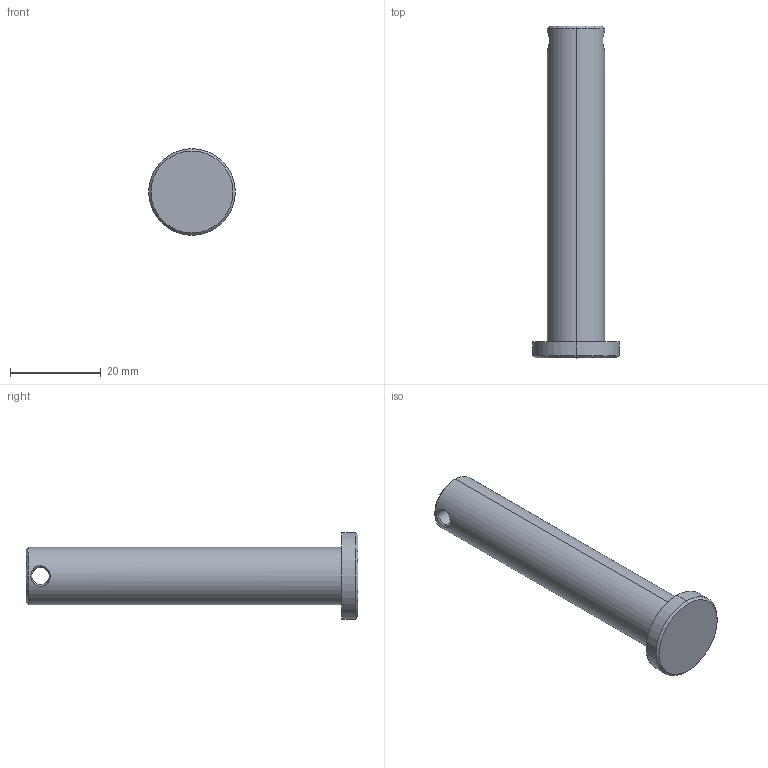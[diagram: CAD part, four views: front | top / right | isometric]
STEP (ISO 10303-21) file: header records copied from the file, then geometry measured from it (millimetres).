
FILE_DESCRIPTION (( 'STEP AP214' ), '1' );
FILE_NAME ('MMP LA5 LA10 Aluminum Bracket Pinion.STEP', '2020-09-04T16:02:21', ( '' ), ( '' ), 'SwSTEP 2.0', 'SolidWorks 2017', '' );
FILE_SCHEMA (( 'AUTOMOTIVE_DESIGN' ));
Length unit declared in the file: inch
Products named in the file (1): MMP LA5 LA10 Aluminum Bracket Pinion
Bounding box: 19.05 x 73.03 x 19.05 mm (x, y, z)
Volume: 9586.5 mm3; surface area: 3632.1 mm2
Topology: 1 solids, 1 shells, 17 faces, 36 edges, 22 vertices
Faces by surface type: cylinder 6, bspline 4, cone 4, plane 3
Entity records: 3150 total; most frequent: CARTESIAN_POINT 2768, ORIENTED_EDGE 72, DIRECTION 62, EDGE_CURVE 36, AXIS2_PLACEMENT_3D 26, VERTEX_POINT 22, EDGE_LOOP 20, FACE_OUTER_BOUND 17
